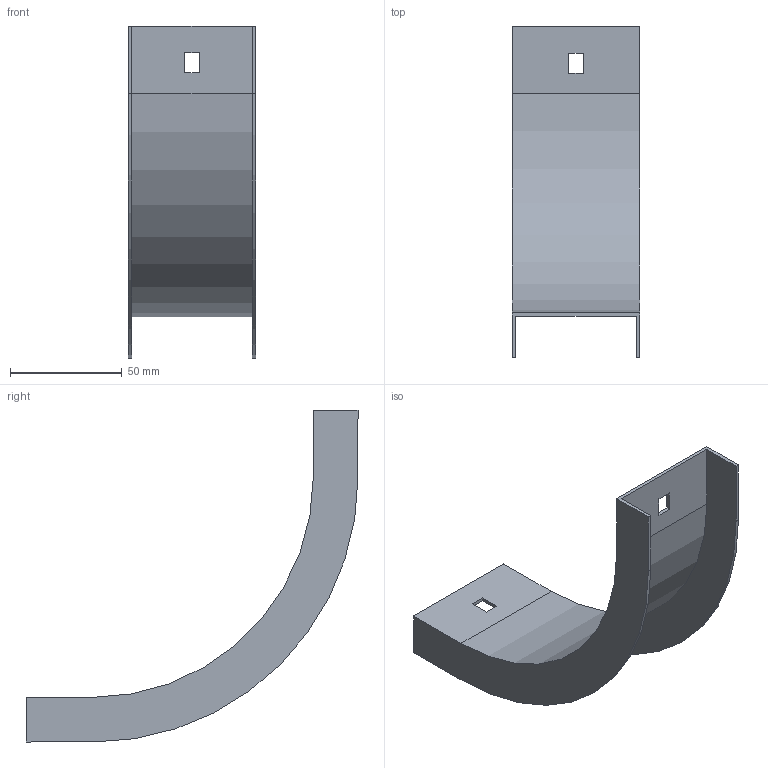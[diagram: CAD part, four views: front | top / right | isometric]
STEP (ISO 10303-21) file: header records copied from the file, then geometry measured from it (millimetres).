
FILE_DESCRIPTION (( 'STEP AP214' ), '1' );
FILE_NAME ('30G1P050.step', '2025-02-21T12:48:13', ( '' ), ( '' ), 'SwSTEP 2.0', 'SolidWorks 2023', '' );
FILE_SCHEMA (( 'AUTOMOTIVE_DESIGN' ));
Length unit declared in the file: millimetre
Products named in the file (1): 30G1P050
Bounding box: 57 x 148.5 x 148.5 mm (x, y, z)
Volume: 31138.4 mm3; surface area: 42627.8 mm2
Topology: 1 solids, 1 shells, 26 faces, 72 edges, 48 vertices
Faces by surface type: plane 22, cylinder 4
Entity records: 855 total; most frequent: CARTESIAN_POINT 147, ORIENTED_EDGE 144, DIRECTION 134, EDGE_CURVE 72, LINE 64, VECTOR 64, VERTEX_POINT 48, AXIS2_PLACEMENT_3D 35
